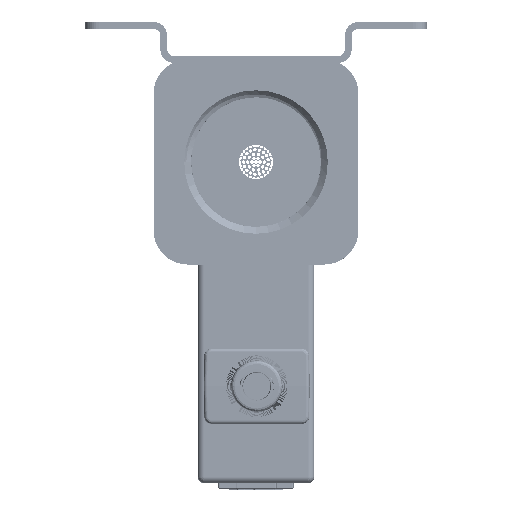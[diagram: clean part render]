
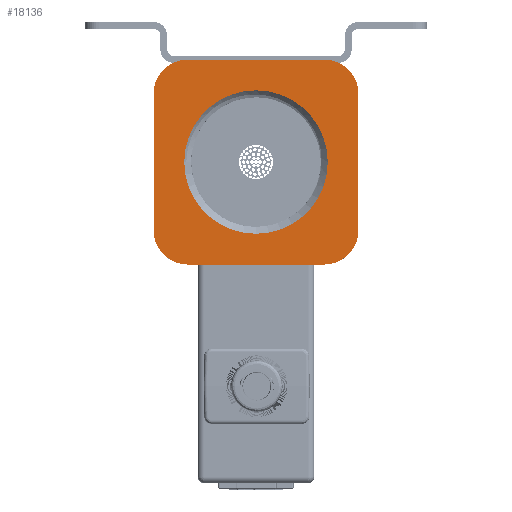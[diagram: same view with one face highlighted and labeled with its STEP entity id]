
A CAD part, front view. The second image highlights one B-rep face of the part: STEP entity #18136.
In plain terms, the highlighted planar face has unit normal (0, -1, 0).
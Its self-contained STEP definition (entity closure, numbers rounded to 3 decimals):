
#5510=CIRCLE('',#72261,5.);
#5513=CIRCLE('',#72265,5.);
#5516=CIRCLE('',#72269,5.);
#5518=CIRCLE('',#72272,5.);
#5545=CIRCLE('',#72331,10.5);
#14444=FACE_BOUND('',#31341,.T.);
#14445=FACE_BOUND('',#31342,.T.);
#15125=PLANE('',#72334);
#18136=ADVANCED_FACE('',(#14444,#14445),#15125,.T.);
#31341=EDGE_LOOP('',(#43256));
#31342=EDGE_LOOP('',(#43257,#43258,#43259,#43260,#43261,#43262,#43263,#43264));
#43256=ORIENTED_EDGE('',*,*,#59041,.T.);
#43257=ORIENTED_EDGE('',*,*,#58980,.T.);
#43258=ORIENTED_EDGE('',*,*,#58977,.T.);
#43259=ORIENTED_EDGE('',*,*,#58943,.T.);
#43260=ORIENTED_EDGE('',*,*,#58975,.T.);
#43261=ORIENTED_EDGE('',*,*,#58947,.T.);
#43262=ORIENTED_EDGE('',*,*,#58971,.T.);
#43263=ORIENTED_EDGE('',*,*,#59043,.T.);
#43264=ORIENTED_EDGE('',*,*,#58965,.T.);
#52166=VERTEX_POINT('',#106095);
#52167=VERTEX_POINT('',#106097);
#52170=VERTEX_POINT('',#106104);
#52171=VERTEX_POINT('',#106106);
#52188=VERTEX_POINT('',#106141);
#52189=VERTEX_POINT('',#106143);
#52194=VERTEX_POINT('',#106154);
#52197=VERTEX_POINT('',#106166);
#52244=VERTEX_POINT('',#110153);
#58943=EDGE_CURVE('',#52167,#52166,#61863,.T.);
#58947=EDGE_CURVE('',#52171,#52170,#61867,.T.);
#58965=EDGE_CURVE('',#52189,#52188,#5510,.T.);
#58971=EDGE_CURVE('',#52170,#52194,#5513,.T.);
#58975=EDGE_CURVE('',#52166,#52171,#5516,.T.);
#58977=EDGE_CURVE('',#52197,#52167,#5518,.T.);
#58980=EDGE_CURVE('',#52188,#52197,#61883,.T.);
#59041=EDGE_CURVE('',#52244,#52244,#5545,.T.);
#59043=EDGE_CURVE('',#52194,#52189,#61900,.T.);
#61863=LINE('',#106096,#64016);
#61867=LINE('',#106105,#64020);
#61883=LINE('',#106171,#64036);
#61900=LINE('',#110157,#64053);
#64016=VECTOR('',#88431,1.);
#64020=VECTOR('',#88437,1.);
#64036=VECTOR('',#88497,1.);
#64053=VECTOR('',#88632,1.);
#72261=AXIS2_PLACEMENT_3D('',#106142,#88464,#88465);
#72265=AXIS2_PLACEMENT_3D('',#106155,#88475,#88476);
#72269=AXIS2_PLACEMENT_3D('',#106162,#88484,#88485);
#72272=AXIS2_PLACEMENT_3D('',#106165,#88490,#88491);
#72331=AXIS2_PLACEMENT_3D('',#110152,#88625,#88626);
#72334=AXIS2_PLACEMENT_3D('',#110158,#88633,#88634);
#88431=DIRECTION('',(-1.,0.,0.));
#88437=DIRECTION('',(0.,0.,-1.));
#88464=DIRECTION('',(0.,-1.,0.));
#88465=DIRECTION('',(0.,0.,1.));
#88475=DIRECTION('',(0.,-1.,0.));
#88476=DIRECTION('',(-1.,0.,0.));
#88484=DIRECTION('',(0.,-1.,0.));
#88485=DIRECTION('',(-1.,0.,0.));
#88490=DIRECTION('',(0.,-1.,0.));
#88491=DIRECTION('',(-1.,0.,0.));
#88497=DIRECTION('',(0.,0.,1.));
#88625=DIRECTION('',(0.,1.,0.));
#88626=DIRECTION('',(-1.,0.,0.));
#88632=DIRECTION('',(1.,0.,0.));
#88633=DIRECTION('',(0.,-1.,0.));
#88634=DIRECTION('',(1.,0.,0.));
#106095=CARTESIAN_POINT('',(53.999,-37.219,34.805));
#106096=CARTESIAN_POINT('',(73.999,-37.219,34.805));
#106097=CARTESIAN_POINT('',(73.999,-37.219,34.805));
#106104=CARTESIAN_POINT('',(48.999,-37.219,9.805));
#106105=CARTESIAN_POINT('',(48.999,-37.219,29.805));
#106106=CARTESIAN_POINT('',(48.999,-37.219,29.805));
#106141=CARTESIAN_POINT('',(78.999,-37.219,9.805));
#106142=CARTESIAN_POINT('',(73.999,-37.219,9.805));
#106143=CARTESIAN_POINT('',(73.999,-37.219,4.805));
#106154=CARTESIAN_POINT('',(53.999,-37.219,4.805));
#106155=CARTESIAN_POINT('',(53.999,-37.219,9.805));
#106162=CARTESIAN_POINT('',(53.999,-37.219,29.805));
#106165=CARTESIAN_POINT('',(73.999,-37.219,29.805));
#106166=CARTESIAN_POINT('',(78.999,-37.219,29.805));
#106171=CARTESIAN_POINT('',(78.999,-37.219,9.805));
#110152=CARTESIAN_POINT('',(63.999,-37.219,19.805));
#110153=CARTESIAN_POINT('',(53.499,-37.219,19.805));
#110157=CARTESIAN_POINT('',(53.999,-37.219,4.805));
#110158=CARTESIAN_POINT('',(73.999,-37.219,29.805));
